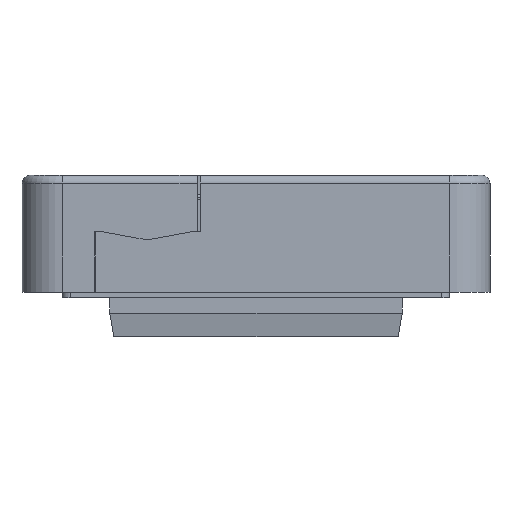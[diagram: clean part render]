
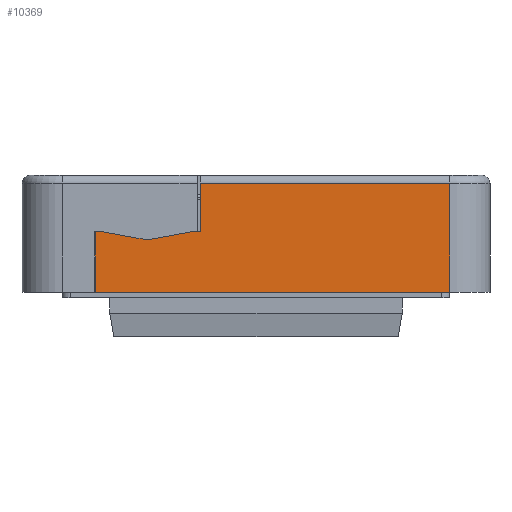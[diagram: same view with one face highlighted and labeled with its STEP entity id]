
A CAD part, left-side view. The second image highlights one B-rep face of the part: STEP entity #10369.
In plain terms, the highlighted planar face has unit normal (-1, 0, 0) as drawn and (1, 0, 0) by its records, which use the part's own axes.
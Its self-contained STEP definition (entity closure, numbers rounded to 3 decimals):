
#1229=FACE_OUTER_BOUND('',#1865,.T.);
#1865=EDGE_LOOP('',(#8431,#8432,#8433,#8434,#8435,#8436,#8437,#8438,#8439));
#2660=LINE('',#16927,#3665);
#2696=LINE('',#17078,#3701);
#2700=LINE('',#17084,#3705);
#2702=LINE('',#17088,#3707);
#2703=LINE('',#17090,#3708);
#2704=LINE('',#17091,#3709);
#2705=LINE('',#17093,#3710);
#2706=LINE('',#17095,#3711);
#2707=LINE('',#17096,#3712);
#3665=VECTOR('',#12998,10.);
#3701=VECTOR('',#13086,10.);
#3705=VECTOR('',#13092,10.);
#3707=VECTOR('',#13096,10.);
#3708=VECTOR('',#13097,10.);
#3709=VECTOR('',#13098,10.);
#3710=VECTOR('',#13099,10.);
#3711=VECTOR('',#13100,10.);
#3712=VECTOR('',#13101,10.);
#4707=VERTEX_POINT('',#16924);
#4708=VERTEX_POINT('',#16926);
#4756=VERTEX_POINT('',#17076);
#4757=VERTEX_POINT('',#17077);
#4758=VERTEX_POINT('',#17083);
#4759=VERTEX_POINT('',#17087);
#4760=VERTEX_POINT('',#17089);
#4761=VERTEX_POINT('',#17092);
#4762=VERTEX_POINT('',#17094);
#6001=EDGE_CURVE('',#4708,#4707,#2660,.T.);
#6059=EDGE_CURVE('',#4756,#4757,#2696,.T.);
#6063=EDGE_CURVE('',#4758,#4756,#2700,.T.);
#6065=EDGE_CURVE('',#4707,#4759,#2702,.T.);
#6066=EDGE_CURVE('',#4759,#4760,#2703,.T.);
#6067=EDGE_CURVE('',#4760,#4758,#2704,.T.);
#6068=EDGE_CURVE('',#4761,#4757,#2705,.T.);
#6069=EDGE_CURVE('',#4762,#4761,#2706,.T.);
#6070=EDGE_CURVE('',#4708,#4762,#2707,.T.);
#8431=ORIENTED_EDGE('',*,*,#6065,.T.);
#8432=ORIENTED_EDGE('',*,*,#6066,.T.);
#8433=ORIENTED_EDGE('',*,*,#6067,.T.);
#8434=ORIENTED_EDGE('',*,*,#6063,.T.);
#8435=ORIENTED_EDGE('',*,*,#6059,.T.);
#8436=ORIENTED_EDGE('',*,*,#6068,.F.);
#8437=ORIENTED_EDGE('',*,*,#6069,.F.);
#8438=ORIENTED_EDGE('',*,*,#6070,.F.);
#8439=ORIENTED_EDGE('',*,*,#6001,.T.);
#9853=PLANE('',#11205);
#10369=ADVANCED_FACE('',(#1229),#9853,.T.);
#11205=AXIS2_PLACEMENT_3D('',#17086,#13094,#13095);
#12998=DIRECTION('',(0.,0.,1.));
#13086=DIRECTION('',(0.,0.,1.));
#13092=DIRECTION('',(0.,1.,0.));
#13094=DIRECTION('center_axis',(1.,0.,0.));
#13095=DIRECTION('ref_axis',(0.,0.,-1.));
#13096=DIRECTION('',(0.,1.,0.));
#13097=DIRECTION('',(0.,0.984,0.179));
#13098=DIRECTION('',(0.,0.984,-0.179));
#13099=DIRECTION('',(0.,1.,0.));
#13100=DIRECTION('',(0.,0.,1.));
#13101=DIRECTION('',(0.,-1.,0.));
#16924=CARTESIAN_POINT('',(50.5,6.9,-8.));
#16926=CARTESIAN_POINT('',(50.5,6.9,-14.));
#16927=CARTESIAN_POINT('',(50.5,6.9,-5.927));
#17076=CARTESIAN_POINT('',(50.5,19.9,-8.));
#17077=CARTESIAN_POINT('',(50.5,19.9,-0.5));
#17078=CARTESIAN_POINT('',(50.5,19.9,-2.554));
#17083=CARTESIAN_POINT('',(50.5,19.,-8.));
#17084=CARTESIAN_POINT('',(50.5,-3.75,-8.));
#17086=CARTESIAN_POINT('Origin',(50.5,-27.5,0.));
#17087=CARTESIAN_POINT('',(50.5,8.,-8.));
#17088=CARTESIAN_POINT('',(50.5,-3.75,-8.));
#17089=CARTESIAN_POINT('',(50.5,13.5,-7.));
#17090=CARTESIAN_POINT('',(50.5,-5.728,-10.496));
#17091=CARTESIAN_POINT('',(50.5,-4.21,-3.78));
#17092=CARTESIAN_POINT('',(50.5,-24.,-0.5));
#17093=CARTESIAN_POINT('',(50.5,-29.,-0.5));
#17094=CARTESIAN_POINT('',(50.5,-24.,-14.));
#17095=CARTESIAN_POINT('',(50.5,-24.,-0.25));
#17096=CARTESIAN_POINT('',(50.5,-13.75,-14.));
